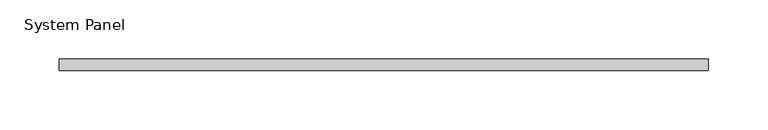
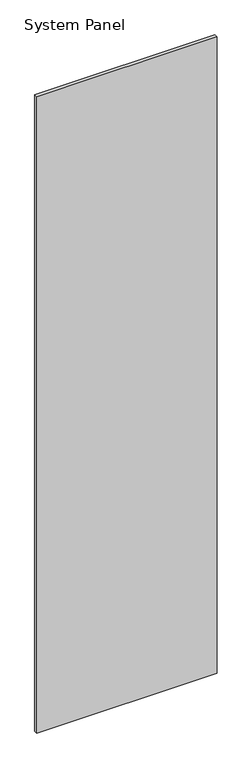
"""IFC4 building model written with IfcOpenShell, lengths in millimetres: plate geometry, System Panel : стекло_смещение_0."""

from ifc_helpers import new_model, si_unit, origin, origin_with_axes, place, context, project, spatial, polyline, outline, extrude, source, transform, mapped, element, save


def system_panel_ff62480e(model_context):
    return source(origin(), model_context, "Body", "SweptSolid", [
        extrude(outline(polyline([(275.0, -5.0), (-275.0, -5.0), (-275.0, 5.0), (275.0, 5.0), (275.0, -5.0)])), origin_with_axes(), (0.0, 0.0, 1.0), 2050.0),
    ])


if __name__ == "__main__":
    model = new_model("IFC4")
    model_context = context("Model", 3, world=origin())
    ifc_project = project(units=[si_unit("LENGTHUNIT", "METRE", prefix="MILLI")], contexts=[model_context])
    site = spatial("IfcSite", under=ifc_project)
    building = spatial("IfcBuilding", under=site)
    placement = place(None, origin())
    system_panel_shape = system_panel_ff62480e(model_context)
    element("IfcPlate", 1, ObjectType="System Panel : стекло_смещение_0", at=placement, inside=building, context=model_context, shape_type="MappedRepresentation", body=[
        mapped(system_panel_shape, transform((0.0, 0.0, 0.0), x_axis=(1.0, 0.0, 0.0), y_axis=(0.0, 1.0, 0.0), z_axis=(0.0, 0.0, 1.0))),
    ])
    save(model, "model.ifc")
